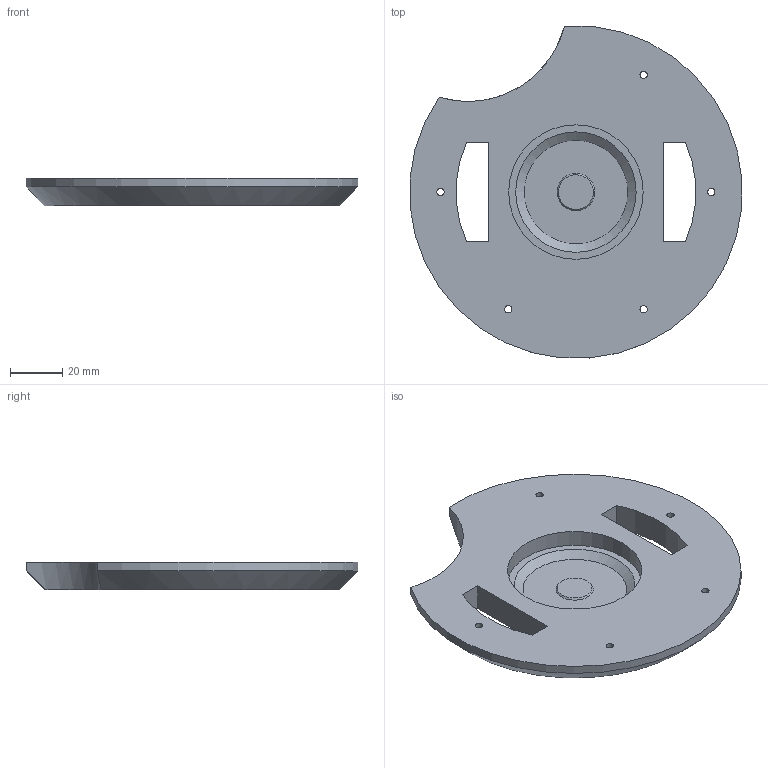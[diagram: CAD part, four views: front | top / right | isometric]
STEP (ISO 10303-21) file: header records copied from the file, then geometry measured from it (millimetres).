
FILE_DESCRIPTION(/* description */ (''),/* implementation_level */ '2;1');
FILE_NAME(/* name */ 'Clutch Housing Cap.stp',/* time_stamp */ '2026-07-31T09:20:42-06:00',/* author */ (''),/* organization */ (''),/* preprocessor_version */ 'ST-DEVELOPER v18.102',/* originating_system */ 'SIEMENS PLM Software NX 2027',/* authorisation */ '');
FILE_SCHEMA (('AUTOMOTIVE_DESIGN { 1 0 10303 214 3 1 1 1 }'));
Length unit declared in the file: inch
Products named in the file (1): Clutch Housing Cap
Bounding box: 126.59 x 126.63 x 10.57 mm (x, y, z)
Volume: 90910.7 mm3; surface area: 29057.5 mm2
Topology: 1 solids, 1 shells, 38 faces, 82 edges, 56 vertices
Faces by surface type: plane 18, cylinder 17, cone 3
Full cylindrical faces by diameter (mm): 2.785 x5, 5 x2, 6.175 x5, 51.298 x1
Entity records: 1004 total; most frequent: DIRECTION 176, CARTESIAN_POINT 166, ORIENTED_EDGE 126, AXIS2_PLACEMENT_3D 78, EDGE_LOOP 77, FACE_BOUND 63, EDGE_CURVE 63, VERTEX_POINT 52
